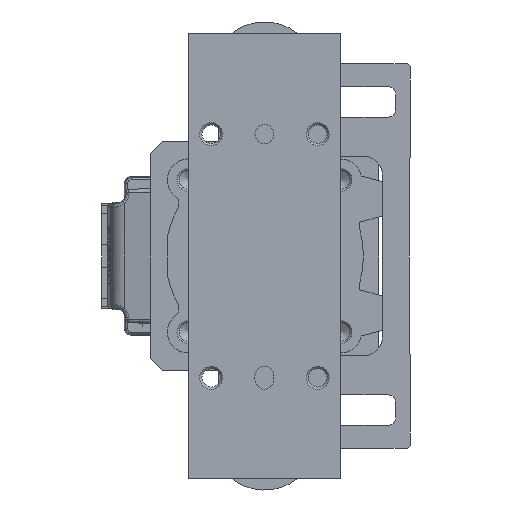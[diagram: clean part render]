
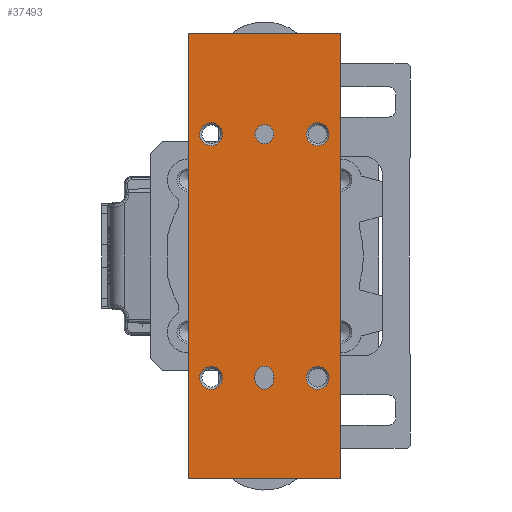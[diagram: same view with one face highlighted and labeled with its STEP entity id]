
A CAD part, left-side view. The second image highlights one B-rep face of the part: STEP entity #37493.
In plain terms, the highlighted planar face has unit normal (-1, 0, 0) as drawn and (0, 0, 1) by its records, which use the part's own axes.
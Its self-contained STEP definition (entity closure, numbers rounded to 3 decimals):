
#167 = CARTESIAN_POINT ( 'NONE',  ( -58.5, -20., 28.5 ) ) ;
#685 = CARTESIAN_POINT ( 'NONE',  ( -32.5, -2.5, 28.5 ) ) ;
#708 = DIRECTION ( 'NONE',  ( -1., 0., 0. ) ) ;
#1076 = DIRECTION ( 'NONE',  ( 0., 0., -1. ) ) ;
#1101 = ORIENTED_EDGE ( 'NONE', *, *, #19548, .T. ) ;
#2208 = VECTOR ( 'NONE', #16563, 1000. ) ;
#2289 = EDGE_CURVE ( 'NONE', #31091, #49531, #34428, .T. ) ;
#2630 = EDGE_CURVE ( 'NONE', #5496, #28735, #31289, .T. ) ;
#2870 = ORIENTED_EDGE ( 'NONE', *, *, #44321, .T. ) ;
#3716 = CARTESIAN_POINT ( 'NONE',  ( -32.5, 2.5, 28.5 ) ) ;
#3784 = ORIENTED_EDGE ( 'NONE', *, *, #44734, .T. ) ;
#3952 = DIRECTION ( 'NONE',  ( 0., 0., -1. ) ) ;
#4095 = LINE ( 'NONE', #50024, #49590 ) ;
#4702 = VERTEX_POINT ( 'NONE', #21111 ) ;
#5197 = DIRECTION ( 'NONE',  ( -1., 0., 0. ) ) ;
#5254 = CARTESIAN_POINT ( 'NONE',  ( 32., 14., 28.5 ) ) ;
#5496 = VERTEX_POINT ( 'NONE', #49390 ) ;
#5991 = FACE_BOUND ( 'NONE', #27060, .T. ) ;
#6222 = CARTESIAN_POINT ( 'NONE',  ( -32.5, 2.5, 28.5 ) ) ;
#7736 = CARTESIAN_POINT ( 'NONE',  ( 58.5, -20., 28.5 ) ) ;
#8401 = CARTESIAN_POINT ( 'NONE',  ( -32.5, -2.5, 28.5 ) ) ;
#8872 = CIRCLE ( 'NONE', #31194, 3. ) ;
#9201 = VERTEX_POINT ( 'NONE', #38380 ) ;
#9375 = DIRECTION ( 'NONE',  ( -1., 0., 0. ) ) ;
#9381 = EDGE_LOOP ( 'NONE', ( #44110 ) ) ;
#9384 = EDGE_LOOP ( 'NONE', ( #24200 ) ) ;
#9846 = AXIS2_PLACEMENT_3D ( 'NONE', #16047, #3952, #708 ) ;
#9882 = DIRECTION ( 'NONE',  ( 0., 0., -1. ) ) ;
#10026 = FACE_BOUND ( 'NONE', #9381, .T. ) ;
#10037 = VERTEX_POINT ( 'NONE', #11086 ) ;
#10623 = CARTESIAN_POINT ( 'NONE',  ( 29., 14., 28.5 ) ) ;
#11086 = CARTESIAN_POINT ( 'NONE',  ( 29., -14., 28.5 ) ) ;
#11258 = DIRECTION ( 'NONE',  ( -1., 0., 0. ) ) ;
#11517 = VERTEX_POINT ( 'NONE', #46910 ) ;
#11558 = EDGE_CURVE ( 'NONE', #52034, #52034, #47187, .T. ) ;
#12183 = AXIS2_PLACEMENT_3D ( 'NONE', #14216, #46996, #30873 ) ;
#12489 = DIRECTION ( 'NONE',  ( 0., 0., 1. ) ) ;
#13265 = FACE_BOUND ( 'NONE', #43298, .T. ) ;
#14061 = DIRECTION ( 'NONE',  ( 0., 0., -1. ) ) ;
#14216 = CARTESIAN_POINT ( 'NONE',  ( 32., 0., 28.5 ) ) ;
#15107 = ORIENTED_EDGE ( 'NONE', *, *, #48889, .T. ) ;
#15357 = EDGE_LOOP ( 'NONE', ( #47011, #51114, #21517, #37642 ) ) ;
#16047 = CARTESIAN_POINT ( 'NONE',  ( 32., -14., 28.5 ) ) ;
#16563 = DIRECTION ( 'NONE',  ( 0., -1., 0. ) ) ;
#17010 = LINE ( 'NONE', #8401, #49232 ) ;
#17323 = PLANE ( 'NONE',  #23061 ) ;
#17974 = CARTESIAN_POINT ( 'NONE',  ( -31.5, 0., 28.5 ) ) ;
#18084 = CIRCLE ( 'NONE', #38661, 3. ) ;
#18837 = DIRECTION ( 'NONE',  ( -1., 0., 0. ) ) ;
#19548 = EDGE_CURVE ( 'NONE', #23073, #9201, #42241, .T. ) ;
#20457 = EDGE_LOOP ( 'NONE', ( #1101, #2870, #37696, #32913 ) ) ;
#20617 = VECTOR ( 'NONE', #11258, 1000. ) ;
#21111 = CARTESIAN_POINT ( 'NONE',  ( -35., 14., 28.5 ) ) ;
#21472 = AXIS2_PLACEMENT_3D ( 'NONE', #5254, #50401, #38081 ) ;
#21517 = ORIENTED_EDGE ( 'NONE', *, *, #2630, .F. ) ;
#22029 = DIRECTION ( 'NONE',  ( 0., 0., 1. ) ) ;
#22139 = FACE_OUTER_BOUND ( 'NONE', #20457, .T. ) ;
#22778 = EDGE_LOOP ( 'NONE', ( #45040 ) ) ;
#22903 = LINE ( 'NONE', #6222, #40651 ) ;
#23061 = AXIS2_PLACEMENT_3D ( 'NONE', #26687, #14061, #5197 ) ;
#23073 = VERTEX_POINT ( 'NONE', #7736 ) ;
#23211 = VERTEX_POINT ( 'NONE', #43625 ) ;
#24071 = VERTEX_POINT ( 'NONE', #32947 ) ;
#24200 = ORIENTED_EDGE ( 'NONE', *, *, #51178, .T. ) ;
#24803 = DIRECTION ( 'NONE',  ( 1., 0., 0. ) ) ;
#26296 = DIRECTION ( 'NONE',  ( -1., 0., 0. ) ) ;
#26687 = CARTESIAN_POINT ( 'NONE',  ( 0., 0., 28.5 ) ) ;
#27060 = EDGE_LOOP ( 'NONE', ( #15107 ) ) ;
#28439 = EDGE_CURVE ( 'NONE', #24071, #24071, #50810, .T. ) ;
#28442 = AXIS2_PLACEMENT_3D ( 'NONE', #32952, #12489, #52854 ) ;
#28735 = VERTEX_POINT ( 'NONE', #51765 ) ;
#29471 = VECTOR ( 'NONE', #34705, 1000. ) ;
#29964 = CARTESIAN_POINT ( 'NONE',  ( -58.5, -20., 28.5 ) ) ;
#30201 = FACE_BOUND ( 'NONE', #9384, .T. ) ;
#30313 = CARTESIAN_POINT ( 'NONE',  ( -32., 14., 28.5 ) ) ;
#30873 = DIRECTION ( 'NONE',  ( 1., 0., 0. ) ) ;
#31091 = VERTEX_POINT ( 'NONE', #3716 ) ;
#31194 = AXIS2_PLACEMENT_3D ( 'NONE', #37906, #1076, #9375 ) ;
#31289 = CIRCLE ( 'NONE', #39062, 2.5 ) ;
#32913 = ORIENTED_EDGE ( 'NONE', *, *, #52899, .T. ) ;
#32947 = CARTESIAN_POINT ( 'NONE',  ( 34.5, 0., 28.5 ) ) ;
#32952 = CARTESIAN_POINT ( 'NONE',  ( -32.5, 0., 28.5 ) ) ;
#34116 = DIRECTION ( 'NONE',  ( 1., 0., 0. ) ) ;
#34185 = CARTESIAN_POINT ( 'NONE',  ( 58.5, -20., 28.5 ) ) ;
#34234 = FACE_BOUND ( 'NONE', #22778, .T. ) ;
#34428 = CIRCLE ( 'NONE', #28442, 2.5 ) ;
#34705 = DIRECTION ( 'NONE',  ( 0., 1., 0. ) ) ;
#36996 = LINE ( 'NONE', #167, #2208 ) ;
#37493 = ADVANCED_FACE ( 'NONE', ( #10026, #30201, #5991, #13265, #34234, #22139, #38298 ), #17323, .F. ) ;
#37642 = ORIENTED_EDGE ( 'NONE', *, *, #48467, .F. ) ;
#37696 = ORIENTED_EDGE ( 'NONE', *, *, #50119, .T. ) ;
#37906 = CARTESIAN_POINT ( 'NONE',  ( -32., -14., 28.5 ) ) ;
#38081 = DIRECTION ( 'NONE',  ( -1., 0., 0. ) ) ;
#38298 = FACE_BOUND ( 'NONE', #15357, .T. ) ;
#38380 = CARTESIAN_POINT ( 'NONE',  ( 58.5, 20., 28.5 ) ) ;
#38661 = AXIS2_PLACEMENT_3D ( 'NONE', #30313, #9882, #26296 ) ;
#39062 = AXIS2_PLACEMENT_3D ( 'NONE', #17974, #22029, #34116 ) ;
#40573 = LINE ( 'NONE', #48878, #20617 ) ;
#40651 = VECTOR ( 'NONE', #18837, 1000. ) ;
#41586 = CIRCLE ( 'NONE', #9846, 3. ) ;
#42241 = LINE ( 'NONE', #34185, #29471 ) ;
#43298 = EDGE_LOOP ( 'NONE', ( #3784 ) ) ;
#43625 = CARTESIAN_POINT ( 'NONE',  ( -35., -14., 28.5 ) ) ;
#44110 = ORIENTED_EDGE ( 'NONE', *, *, #11558, .T. ) ;
#44321 = EDGE_CURVE ( 'NONE', #9201, #11517, #40573, .T. ) ;
#44734 = EDGE_CURVE ( 'NONE', #4702, #4702, #18084, .T. ) ;
#45040 = ORIENTED_EDGE ( 'NONE', *, *, #28439, .F. ) ;
#46910 = CARTESIAN_POINT ( 'NONE',  ( -58.5, 20., 28.5 ) ) ;
#46996 = DIRECTION ( 'NONE',  ( 0., 0., 1. ) ) ;
#47011 = ORIENTED_EDGE ( 'NONE', *, *, #2289, .F. ) ;
#47187 = CIRCLE ( 'NONE', #21472, 3. ) ;
#48467 = EDGE_CURVE ( 'NONE', #49531, #5496, #17010, .T. ) ;
#48513 = EDGE_CURVE ( 'NONE', #28735, #31091, #22903, .T. ) ;
#48878 = CARTESIAN_POINT ( 'NONE',  ( -58.5, 20., 28.5 ) ) ;
#48889 = EDGE_CURVE ( 'NONE', #23211, #23211, #8872, .T. ) ;
#49232 = VECTOR ( 'NONE', #49519, 1000. ) ;
#49390 = CARTESIAN_POINT ( 'NONE',  ( -31.5, -2.5, 28.5 ) ) ;
#49519 = DIRECTION ( 'NONE',  ( 1., 0., 0. ) ) ;
#49531 = VERTEX_POINT ( 'NONE', #685 ) ;
#49590 = VECTOR ( 'NONE', #24803, 1000. ) ;
#50024 = CARTESIAN_POINT ( 'NONE',  ( -58.5, -20., 28.5 ) ) ;
#50119 = EDGE_CURVE ( 'NONE', #11517, #50258, #36996, .T. ) ;
#50258 = VERTEX_POINT ( 'NONE', #29964 ) ;
#50401 = DIRECTION ( 'NONE',  ( 0., 0., -1. ) ) ;
#50810 = CIRCLE ( 'NONE', #12183, 2.5 ) ;
#51114 = ORIENTED_EDGE ( 'NONE', *, *, #48513, .F. ) ;
#51178 = EDGE_CURVE ( 'NONE', #10037, #10037, #41586, .T. ) ;
#51765 = CARTESIAN_POINT ( 'NONE',  ( -31.5, 2.5, 28.5 ) ) ;
#52034 = VERTEX_POINT ( 'NONE', #10623 ) ;
#52854 = DIRECTION ( 'NONE',  ( 1., 0., 0. ) ) ;
#52899 = EDGE_CURVE ( 'NONE', #50258, #23073, #4095, .T. ) ;
